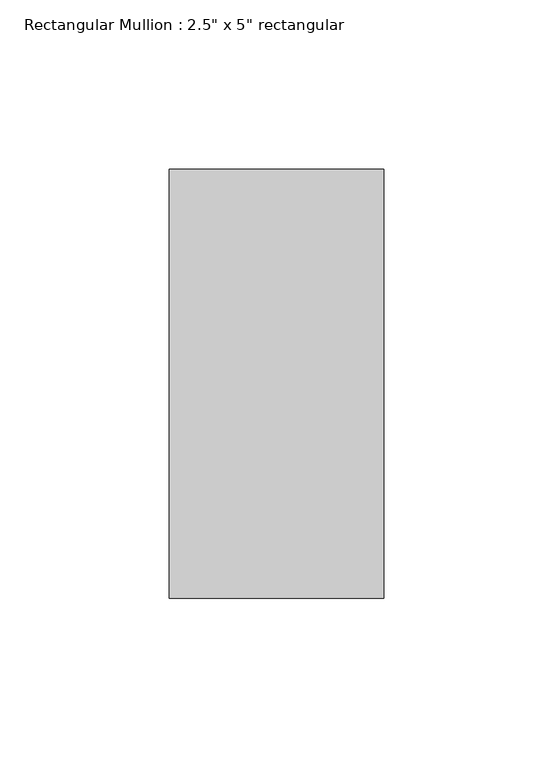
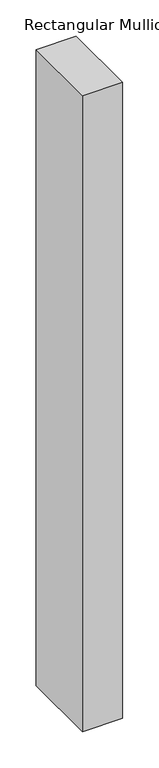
"""IFC4 building model written with IfcOpenShell, lengths in millimetres: member geometry."""

from ifc_helpers import new_model, si_unit, frame, origin, place, context, project, spatial, polyline, outline, extrude, source, transform, mapped, element, save


def member_a715cb85(model_context):
    return source(origin(), model_context, "Body", "SweptSolid", [
        extrude(outline(polyline([(31.75, 63.5), (31.75, -63.5), (-31.75, -63.5), (-31.75, 63.5), (31.75, 63.5)])), frame((0.0, 0.0, -1066.8), z_axis=(0.0, 0.0, 1.0), x_axis=(1.0, 0.0, 0.0)), (0.0, 0.0, 1.0), 1066.8),
    ])


if __name__ == "__main__":
    model = new_model("IFC4")
    model_context = context("Model", 3, world=origin())
    ifc_project = project(units=[si_unit("LENGTHUNIT", "METRE", prefix="MILLI")], contexts=[model_context])
    site = spatial("IfcSite", under=ifc_project)
    building = spatial("IfcBuilding", under=site)
    placement = place(None, origin())
    member_shape = member_a715cb85(model_context)
    element("IfcMember", 1, ObjectType="Rectangular Mullion : 2.5\" x 5\" rectangular", at=placement, inside=building, context=model_context, shape_type="MappedRepresentation", body=[
        mapped(member_shape, transform((0.0, 0.0, 0.0), x_axis=(1.0, 0.0, 0.0), y_axis=(0.0, 1.0, 0.0), z_axis=(0.0, 0.0, 1.0))),
    ])
    save(model, "model.ifc")
